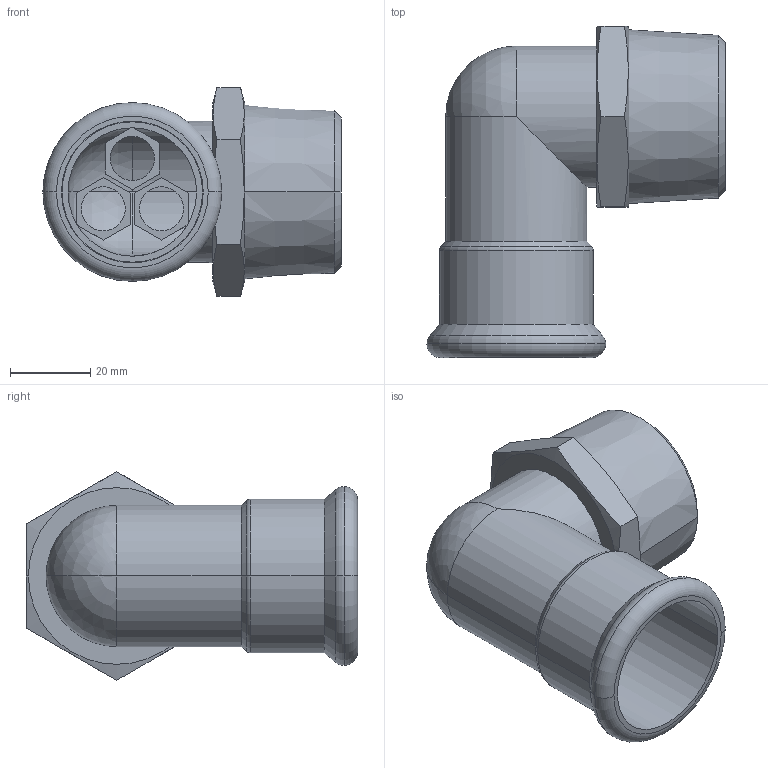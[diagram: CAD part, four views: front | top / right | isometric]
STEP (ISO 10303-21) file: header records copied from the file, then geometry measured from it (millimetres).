
FILE_DESCRIPTION(('OneSpaceDesigner STEP Export'),'2;1');
FILE_NAME('R2728 35xR1-1-4.stp','2010-06-10T13:22:34',(''),(''),'OneSpace Designer STEP processor for AP214 (Solid Model)','OneSpace Modeling 15.00A 14-Mar-2007 (C) CoCreate Software GmbH','');
FILE_SCHEMA(('AUTOMOTIVE_DESIGN { 1 0 10303 214 1 1 1 1 }'));
Length unit declared in the file: millimetre
Products named in the file (2): R2728_35xR1-1-4
Assembly tree (1 placements, depth 2):
  R2728_35xR1-1-4
    R2728_35xR1-1-4
Bounding box: 74.28 x 82.5 x 51.96 mm (x, y, z)
Volume: 36357.3 mm3; surface area: 28870.5 mm2
Topology: 1 solids, 1 shells, 123 faces, 314 edges, 200 vertices
Faces by surface type: plane 67, cylinder 34, cone 12, torus 6, sphere 4
Entity records: 4135 total; most frequent: CARTESIAN_POINT 1379, ORIENTED_EDGE 620, DIRECTION 474, EDGE_CURVE 310, VERTEX_POINT 200, VECTOR 184, LINE 184, EDGE_LOOP 148
